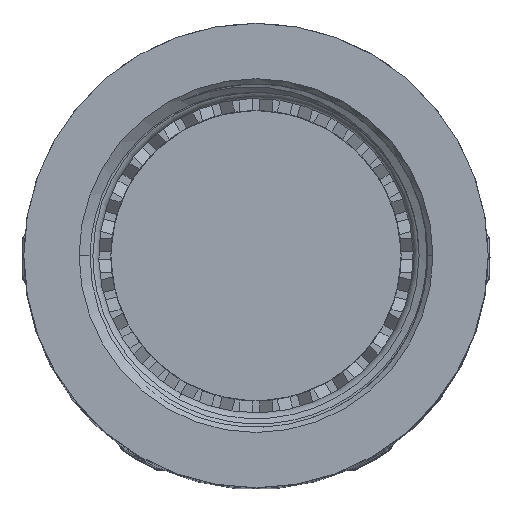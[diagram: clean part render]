
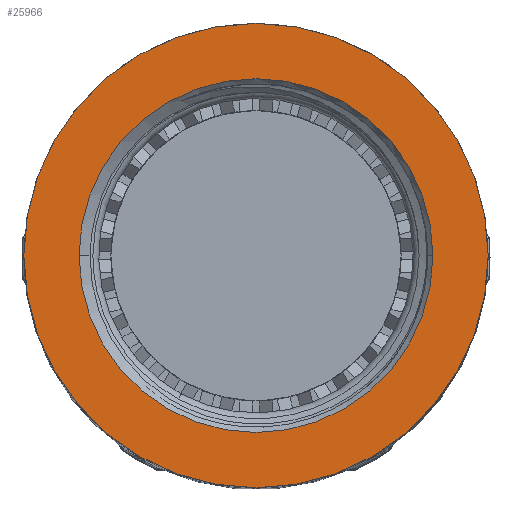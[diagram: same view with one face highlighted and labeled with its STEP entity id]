
A CAD part, top view. The second image highlights one B-rep face of the part: STEP entity #25966.
In plain terms, the highlighted planar face has unit normal (0, 0, 1).
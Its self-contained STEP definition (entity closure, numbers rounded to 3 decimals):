
#116 = CARTESIAN_POINT ( 'NONE',  ( 14.77, 0., 5.664 ) ) ;
#216 = EDGE_CURVE ( 'NONE', #10607, #23722, #24746, .T. ) ;
#2620 = CARTESIAN_POINT ( 'NONE',  ( 0., 0., 5.664 ) ) ;
#3068 = DIRECTION ( 'NONE',  ( -1., 0., 0. ) ) ;
#3608 = CARTESIAN_POINT ( 'NONE',  ( 14.77, 0., 5.664 ) ) ;
#4593 = EDGE_CURVE ( 'NONE', #7188, #8866, #11846, .T. ) ;
#5001 = CARTESIAN_POINT ( 'NONE',  ( -11.252, 0., 5.664 ) ) ;
#6194 = AXIS2_PLACEMENT_3D ( 'NONE', #13015, #13206, #22301 ) ;
#7188 = VERTEX_POINT ( 'NONE', #9203 ) ;
#8866 = VERTEX_POINT ( 'NONE', #3608 ) ;
#9203 = CARTESIAN_POINT ( 'NONE',  ( -14.77, 0., 5.664 ) ) ;
#9604 = CIRCLE ( 'NONE', #24755, 14.77 ) ;
#10607 = VERTEX_POINT ( 'NONE', #25030 ) ;
#10685 = AXIS2_PLACEMENT_3D ( 'NONE', #116, #14892, #3068 ) ;
#11846 = CIRCLE ( 'NONE', #6194, 14.77 ) ;
#13015 = CARTESIAN_POINT ( 'NONE',  ( 0., 0., 5.664 ) ) ;
#13206 = DIRECTION ( 'NONE',  ( 0., 0., -1. ) ) ;
#14246 = DIRECTION ( 'NONE',  ( 1., 0., 0. ) ) ;
#14641 = ORIENTED_EDGE ( 'NONE', *, *, #216, .T. ) ;
#14892 = DIRECTION ( 'NONE',  ( 0., 0., 1. ) ) ;
#17161 = AXIS2_PLACEMENT_3D ( 'NONE', #2620, #32581, #14246 ) ;
#19443 = DIRECTION ( 'NONE',  ( 1., 0., 0. ) ) ;
#20611 = FACE_BOUND ( 'NONE', #38164, .T. ) ;
#21396 = PLANE ( 'NONE',  #10685 ) ;
#21764 = ORIENTED_EDGE ( 'NONE', *, *, #37338, .T. ) ;
#22301 = DIRECTION ( 'NONE',  ( 1., 0., 0. ) ) ;
#23337 = DIRECTION ( 'NONE',  ( 0., 0., -1. ) ) ;
#23722 = VERTEX_POINT ( 'NONE', #5001 ) ;
#23734 = DIRECTION ( 'NONE',  ( 1., 0., 0. ) ) ;
#24746 = CIRCLE ( 'NONE', #31007, 11.252 ) ;
#24755 = AXIS2_PLACEMENT_3D ( 'NONE', #38260, #23337, #23734 ) ;
#25030 = CARTESIAN_POINT ( 'NONE',  ( 11.252, 0., 5.664 ) ) ;
#25966 = ADVANCED_FACE ( 'NONE', ( #20611, #32658 ), #21396, .T. ) ;
#27959 = CARTESIAN_POINT ( 'NONE',  ( 0., 0., 5.664 ) ) ;
#28819 = ORIENTED_EDGE ( 'NONE', *, *, #38976, .F. ) ;
#31007 = AXIS2_PLACEMENT_3D ( 'NONE', #27959, #36774, #19443 ) ;
#32294 = CIRCLE ( 'NONE', #17161, 11.252 ) ;
#32581 = DIRECTION ( 'NONE',  ( 0., 0., -1. ) ) ;
#32658 = FACE_OUTER_BOUND ( 'NONE', #33029, .T. ) ;
#32695 = ORIENTED_EDGE ( 'NONE', *, *, #4593, .F. ) ;
#33029 = EDGE_LOOP ( 'NONE', ( #28819, #32695 ) ) ;
#36774 = DIRECTION ( 'NONE',  ( 0., 0., -1. ) ) ;
#37338 = EDGE_CURVE ( 'NONE', #23722, #10607, #32294, .T. ) ;
#38164 = EDGE_LOOP ( 'NONE', ( #14641, #21764 ) ) ;
#38260 = CARTESIAN_POINT ( 'NONE',  ( 0., 0., 5.664 ) ) ;
#38976 = EDGE_CURVE ( 'NONE', #8866, #7188, #9604, .T. ) ;
